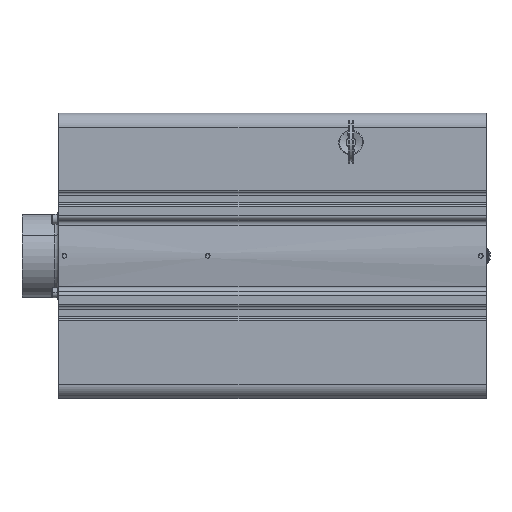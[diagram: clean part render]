
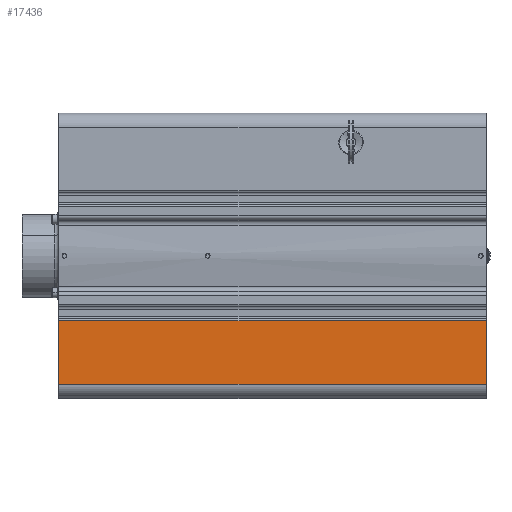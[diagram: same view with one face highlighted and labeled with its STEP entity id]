
A CAD part, top view. The second image highlights one B-rep face of the part: STEP entity #17436.
In plain terms, the highlighted planar face has unit normal (0, 0, 1).
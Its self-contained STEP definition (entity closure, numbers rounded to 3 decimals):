
#2771=DIRECTION('',(0.,1.,0.));
#2772=VECTOR('',#2771,44.275);
#2773=CARTESIAN_POINT('',(0.,-89.95,100.));
#2774=LINE('',#2773,#2772);
#5061=DIRECTION('',(1.,0.,0.));
#5062=VECTOR('',#5061,300.);
#5063=CARTESIAN_POINT('',(-300.,-89.95,100.));
#5064=LINE('',#5063,#5062);
#5069=DIRECTION('',(0.,1.,0.));
#5070=VECTOR('',#5069,44.275);
#5071=CARTESIAN_POINT('',(-300.,-89.95,100.));
#5072=LINE('',#5071,#5070);
#5073=DIRECTION('',(-1.,0.,0.));
#5074=VECTOR('',#5073,300.);
#5075=CARTESIAN_POINT('',(0.,-45.675,100.));
#5076=LINE('',#5075,#5074);
#10086=CARTESIAN_POINT('',(0.,-89.95,100.));
#10087=VERTEX_POINT('',#10086);
#10088=CARTESIAN_POINT('',(0.,-45.675,100.));
#10089=VERTEX_POINT('',#10088);
#10756=CARTESIAN_POINT('',(-300.,-45.675,100.));
#10757=VERTEX_POINT('',#10756);
#10758=CARTESIAN_POINT('',(-300.,-89.95,100.));
#10759=VERTEX_POINT('',#10758);
#17424=CARTESIAN_POINT('',(0.,100.05,100.));
#17425=DIRECTION('',(0.,0.,1.));
#17426=DIRECTION('',(0.,-1.,0.));
#17427=AXIS2_PLACEMENT_3D('',#17424,#17425,#17426);
#17428=PLANE('',#17427);
#17430=ORIENTED_EDGE('',*,*,#17429,.F.);
#17431=ORIENTED_EDGE('',*,*,#14158,.F.);
#17432=ORIENTED_EDGE('',*,*,#17417,.F.);
#17433=ORIENTED_EDGE('',*,*,#12350,.T.);
#17434=EDGE_LOOP('',(#17430,#17431,#17432,#17433));
#17435=FACE_OUTER_BOUND('',#17434,.F.);
#17436=ADVANCED_FACE('',(#17435),#17428,.T.);
#12350=EDGE_CURVE('',#10759,#10757,#5072,.T.);
#14158=EDGE_CURVE('',#10087,#10089,#2774,.T.);
#17417=EDGE_CURVE('',#10759,#10087,#5064,.T.);
#17429=EDGE_CURVE('',#10089,#10757,#5076,.T.);
